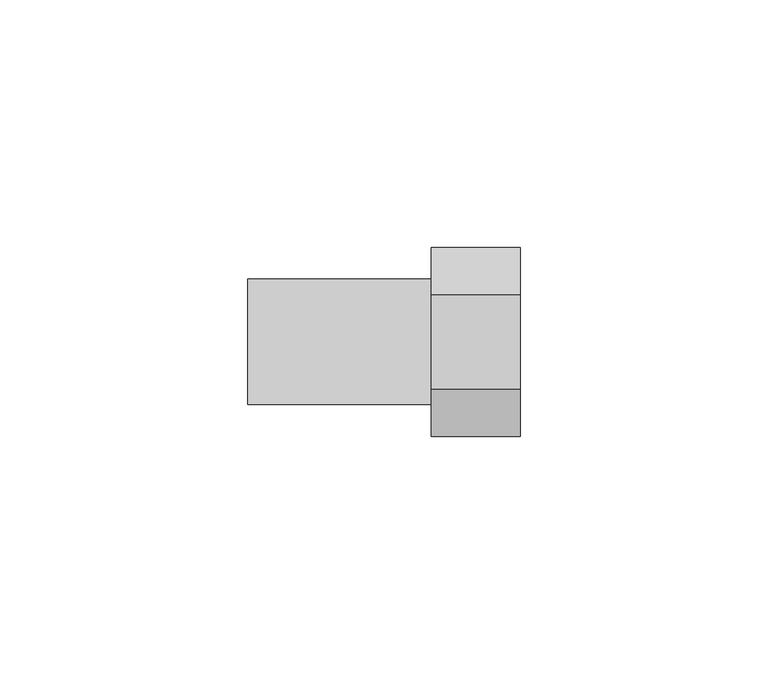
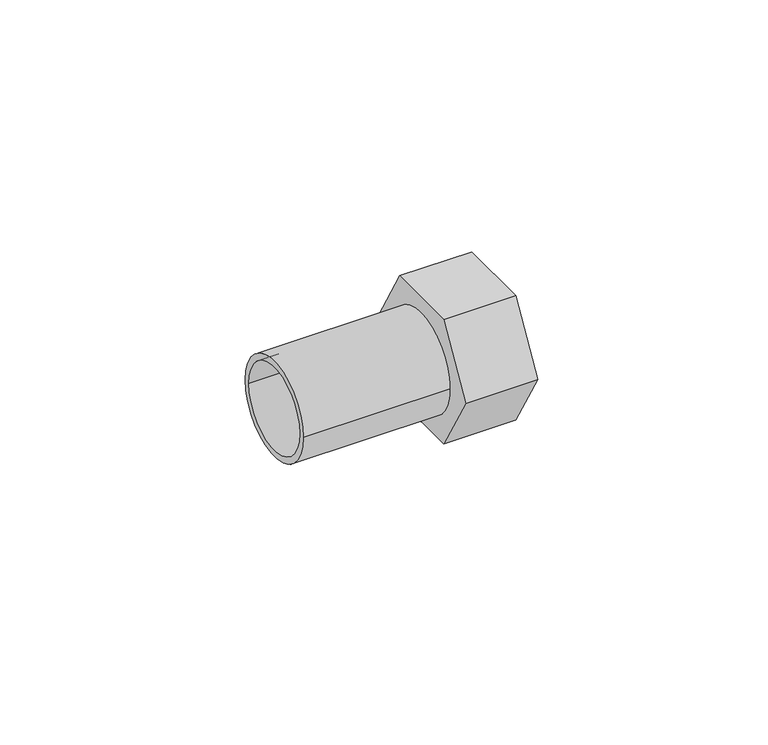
"""IFC4 building model written with IfcOpenShell, lengths in millimetres: pipe fitting geometry, VALTEC_VTi.907.I_Вставка с внутренней резьбой_Нержавеющая сталь : VTi.907.I."""

from ifc_helpers import new_model, si_unit, point, frame, origin, origin_2d, place, context, project, spatial, polyline, circle_curve, trimmed, segment, composite_curve, outline, extrude, source, transform, mapped, element, save


def pipe_fitting_9de7fcec(model_context):
    return source(origin(), model_context, "Body", "SweptSolid", [
        extrude(outline(polyline([(-19.0525589, 0.0), (-9.5262794, 16.5), (9.5262794, 16.5), (19.0525589, 0.0), (9.5262794, -16.5), (-9.5262794, -16.5), (-19.0525589, 0.0)]), holes=[composite_curve([segment(trimmed(circle_curve(origin_2d(), 10.0), [point((10.0, 0.0))], [point((-10.0, 0.0))], True, "CARTESIAN"), True, "CONTINUOUS"), segment(trimmed(circle_curve(origin_2d(), 10.0), [point((-10.0, 0.0))], [point((10.0, 0.0))], True, "CARTESIAN"), True, "CONTINUOUS")], self_intersect=False)]), frame((-9.0, 0.0, 0.0), z_axis=(1.0, 0.0, 0.0), x_axis=(0.0, 1.0, 0.0)), (0.0, 0.0, 1.0), 18.0),
        extrude(outline(composite_curve([segment(trimmed(circle_curve(origin_2d(), 12.65), [point((-12.65, 0.0))], [point((12.65, 0.0))], False, "CARTESIAN"), True, "CONTINUOUS"), segment(trimmed(circle_curve(origin_2d(), 12.65), [point((12.65, 0.0))], [point((-12.65, 0.0))], False, "CARTESIAN"), True, "CONTINUOUS")], self_intersect=False), holes=[composite_curve([segment(trimmed(circle_curve(origin_2d(), 11.0), [point((-11.0, 0.0))], [point((11.0, 0.0))], True, "CARTESIAN"), True, "CONTINUOUS"), segment(trimmed(circle_curve(origin_2d(), 11.0), [point((11.0, 0.0))], [point((-11.0, 0.0))], True, "CARTESIAN"), True, "CONTINUOUS")], self_intersect=False)]), frame((-46.0, 0.0, 0.0), z_axis=(1.0, 0.0, 0.0), x_axis=(0.0, 1.0, 0.0)), (0.0, 0.0, 1.0), 37.0),
    ])


if __name__ == "__main__":
    model = new_model("IFC4")
    model_context = context("Model", 3, world=origin())
    ifc_project = project(units=[si_unit("LENGTHUNIT", "METRE", prefix="MILLI")], contexts=[model_context])
    site = spatial("IfcSite", under=ifc_project)
    building = spatial("IfcBuilding", under=site)
    placement = place(None, origin())
    pipe_fitting_shape = pipe_fitting_9de7fcec(model_context)
    element("IfcPipeFitting", 1, ObjectType="VALTEC_VTi.907.I_Вставка с внутренней резьбой_Нержавеющая сталь : VTi.907.I", at=placement, inside=building, context=model_context, shape_type="MappedRepresentation", body=[
        mapped(pipe_fitting_shape, transform((0.0, 0.0, 0.0), x_axis=(1.0, 0.0, 0.0), y_axis=(0.0, 1.0, 0.0), z_axis=(0.0, 0.0, 1.0))),
    ])
    save(model, "model.ifc")
